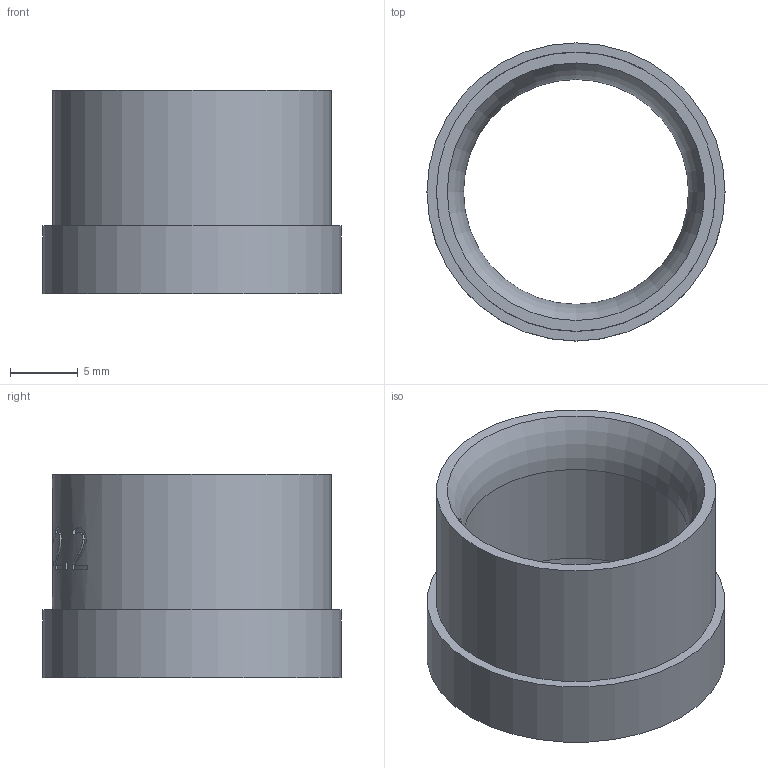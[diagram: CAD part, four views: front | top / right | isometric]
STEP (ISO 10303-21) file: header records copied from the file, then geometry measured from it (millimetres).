
FILE_DESCRIPTION(/* description */ (''),/* implementation_level */ '2;1');
FILE_NAME(/* name */ 'C:\Users\Doom\Desktop\Фадотех\Натяжка\SFG-01 NEW 14.01.2020\SFG-01 NEW 14.01.2020.stp',/* time_stamp */ '2022-07-25T00:32:04+03:00',/* author */ ('Doom'),/* organization */ (''),/* preprocessor_version */ 'ST-DEVELOPER v18',/* originating_system */ 'Autodesk Inventor 2020',/* authorisation */ '');
FILE_SCHEMA (('AUTOMOTIVE_DESIGN { 1 0 10303 214 3 1 1 }'));
Length unit declared in the file: millimetre
Products named in the file (1): SFG-01 NEW 14.01.2020
Bounding box: 22 x 22 x 15 mm (x, y, z)
Volume: 1828.4 mm3; surface area: 2109.3 mm2
Topology: 1 solids, 1 shells, 98 faces, 270 edges, 183 vertices
Faces by surface type: bspline 54, plane 32, cylinder 10, torus 1, cone 1
Full cylindrical faces by diameter (mm): 16.6 x1, 20.6 x1, 22 x1
Entity records: 4425 total; most frequent: CARTESIAN_POINT 2190, ORIENTED_EDGE 540, DIRECTION 300, EDGE_CURVE 270, VERTEX_POINT 183, LINE 114, VECTOR 114, EDGE_LOOP 109
